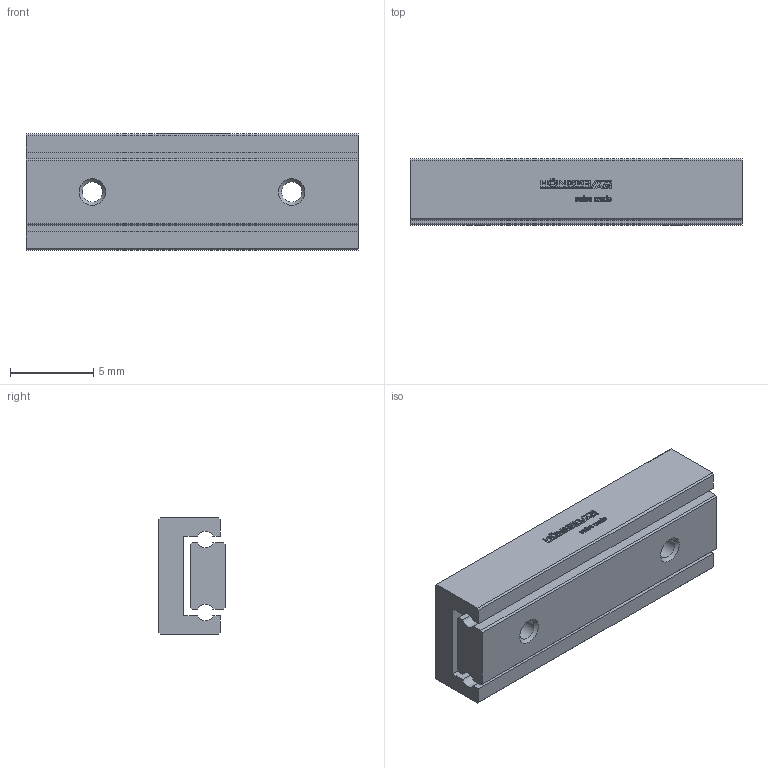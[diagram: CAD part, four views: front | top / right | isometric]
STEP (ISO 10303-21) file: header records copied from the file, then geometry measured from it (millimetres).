
FILE_DESCRIPTION(/* description */ ('STEP AP214'),/* implementation_level */ '2;1');
FILE_NAME(/* name */ 'NDN 05-20.15(0)',/* time_stamp */ '2025-04-16T17:07:20+02:00',/* author */ ('License CC BY-ND 4.0'),/* organization */ ('CADENAS'),/* preprocessor_version */ 'ST-DEVELOPER v19.3',/* originating_system */ 'PARTsolutions',/* authorisation */ ' ');
FILE_SCHEMA (('AUTOMOTIVE_DESIGN {1 0 10303 214 3 1 1}'));
Length unit declared in the file: millimetre
Products named in the file (3): NDN 05-20.15(0); NDN 05-20.15_1; NDN 05-20.15_2
Assembly tree (2 placements, depth 2):
  NDN 05-20.15(0)
    NDN 05-20.15_1
    NDN 05-20.15_2
Bounding box: 20 x 4 x 7 mm (x, y, z)
Volume: 449 mm3; surface area: 840.3 mm2
Topology: 2 solids, 2 shells, 507 faces, 1424 edges, 948 vertices
Faces by surface type: cylinder 300, plane 201, cone 6
Full cylindrical faces by diameter (mm): 1.221 x4
Entity records: 16615 total; most frequent: DIRECTION 3038, CARTESIAN_POINT 2868, ORIENTED_EDGE 2824, EDGE_CURVE 1412, AXIS2_PLACEMENT_3D 1116, VERTEX_POINT 946, LINE 806, VECTOR 806
